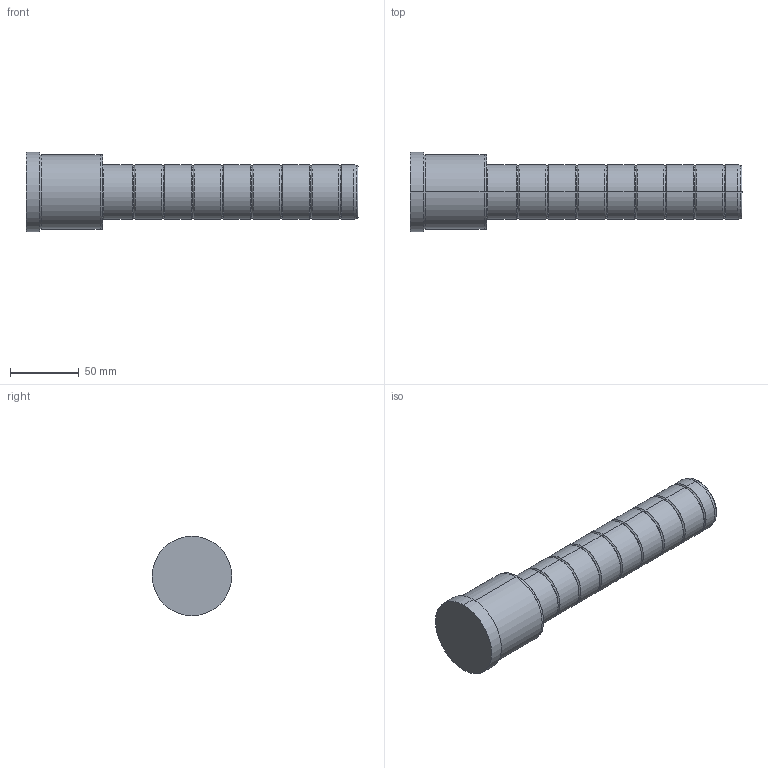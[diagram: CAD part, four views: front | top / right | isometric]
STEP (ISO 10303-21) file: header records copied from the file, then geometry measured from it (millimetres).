
FILE_DESCRIPTION( ( 'STEP AP203' ), '1' );
FILE_NAME( 'C:/Projects/D02 - 40x56x186.step', '2003-01-04T14:16:22', ( ' ' ), ( ' ' ), 'XStep 1.0', ' ', ' ' );
FILE_SCHEMA( ( 'CONFIG_CONTROL_DESIGN' ) );
Length unit declared in the file: metre
Products named in the file (1): 1
Bounding box: 242 x 58 x 58 mm (x, y, z)
Volume: 363855.5 mm3; surface area: 39138.8 mm2
Topology: 1 solids, 1 shells, 72 faces, 142 edges, 76 vertices
Faces by surface type: bspline 42, revolution 30
Entity records: 2315 total; most frequent: CARTESIAN_POINT 1017, ORIENTED_EDGE 284, DIRECTION 214, EDGE_CURVE 142, AXIS2_PLACEMENT_3D 77, EDGE_LOOP 76, VERTEX_POINT 76, CIRCLE 76
